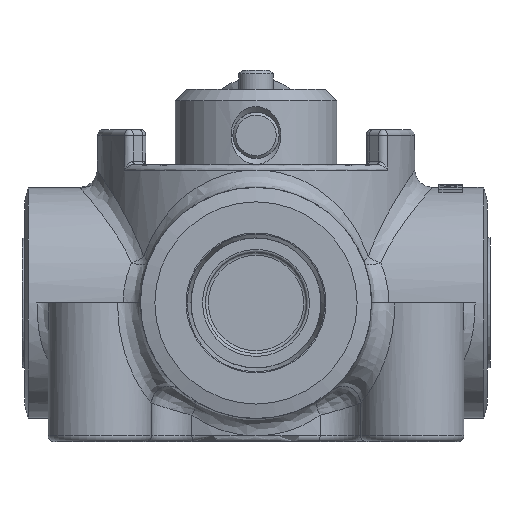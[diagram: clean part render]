
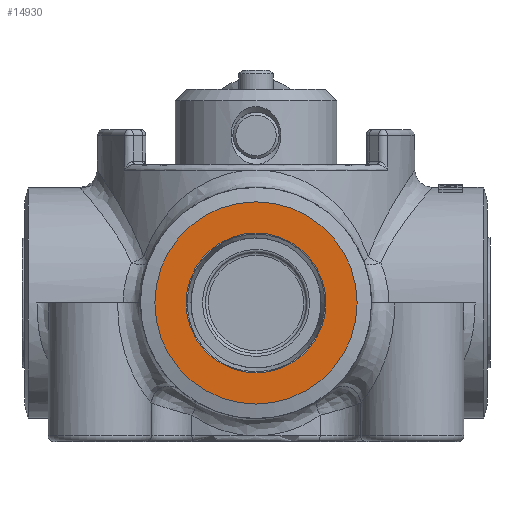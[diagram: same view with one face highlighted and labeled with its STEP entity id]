
A CAD part, left-side view. The second image highlights one B-rep face of the part: STEP entity #14930.
In plain terms, the highlighted planar face has unit normal (-1, 0, 0).
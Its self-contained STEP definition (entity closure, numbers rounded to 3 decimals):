
#14459=CARTESIAN_POINT('',(-39.5,-17.5,24.));
#14460=VERTEX_POINT('',#14459);
#14461=CARTESIAN_POINT('',(-39.5,0.,24.));
#14462=DIRECTION('',(-1.0,0.0,0.0));
#14463=DIRECTION('',(0.0,-1.0,0.0));
#14464=AXIS2_PLACEMENT_3D('',#14461,#14462,#14463);
#14465=CIRCLE('',#14464,17.5);
#14466=EDGE_CURVE('',#14460,#14460,#14465,.T.);
#14911=CARTESIAN_POINT('',(-39.5,0.,24.));
#14912=DIRECTION('',(-1.0,0.0,0.0));
#14913=DIRECTION('',(0.0,-1.0,0.0));
#14914=AXIS2_PLACEMENT_3D('',#14911,#14912,#14913);
#14915=PLANE('',#14914);
#14916=ORIENTED_EDGE('',*,*,#14466,.T.);
#14917=EDGE_LOOP('',(#14916));
#14918=FACE_OUTER_BOUND('',#14917,.T.);
#14919=CARTESIAN_POINT('',(-39.5,0.,36.103));
#14920=VERTEX_POINT('',#14919);
#14921=CARTESIAN_POINT('',(-39.5,0.0,24.));
#14922=DIRECTION('',(-1.0,0.0,0.0));
#14923=DIRECTION('',(0.0,0.0,-1.0));
#14924=AXIS2_PLACEMENT_3D('',#14921,#14922,#14923);
#14925=CIRCLE('',#14924,12.103);
#14926=EDGE_CURVE('',#14920,#14920,#14925,.T.);
#14927=ORIENTED_EDGE('',*,*,#14926,.F.);
#14928=EDGE_LOOP('',(#14927));
#14929=FACE_BOUND('',#14928,.T.);
#14930=ADVANCED_FACE('',(#14918,#14929),#14915,.T.);
